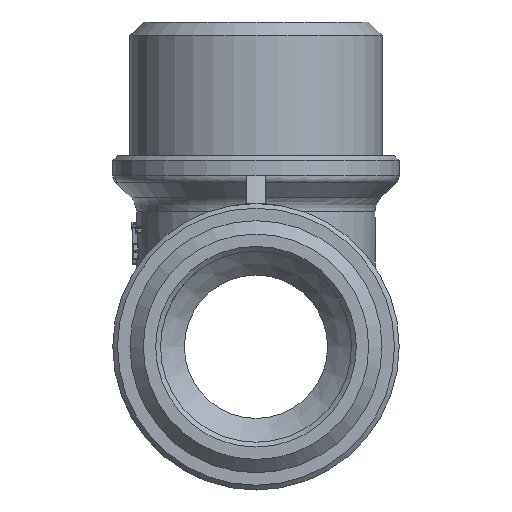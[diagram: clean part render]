
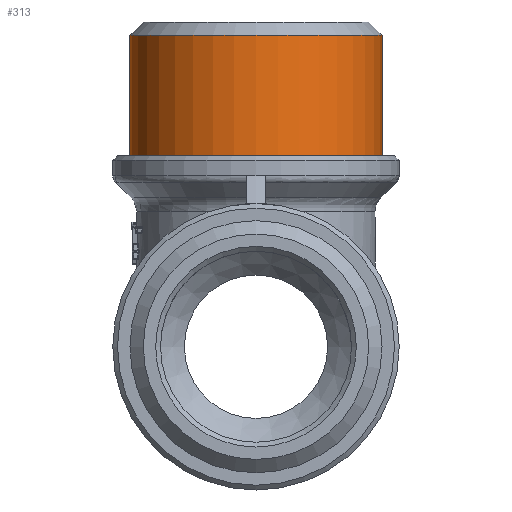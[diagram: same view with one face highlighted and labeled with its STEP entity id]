
A CAD part, front view. The second image highlights one B-rep face of the part: STEP entity #313.
In plain terms, the highlighted cylindrical face has radius 13.2 mm (diameter 26.4 mm), a full revolution.
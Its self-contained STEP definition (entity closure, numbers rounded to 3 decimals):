
#313=ADVANCED_FACE('',(#2198,#2200),#2202,.T.);
#2198=FACE_OUTER_BOUND('',#2199,.T.);
#2199=EDGE_LOOP('',(#4825));
#2200=FACE_OUTER_BOUND('',#2201,.T.);
#2201=EDGE_LOOP('',(#4826));
#2202=CYLINDRICAL_SURFACE('',#2203,13.2);
#2203=AXIS2_PLACEMENT_3D('',#2204,#2205,#2206);
#2204=CARTESIAN_POINT('',(0.,0.,20.));
#2205=DIRECTION('',(0.,0.,1.));
#2206=DIRECTION('',(0.,1.,0.));
#4825=ORIENTED_EDGE('',*,*,#6185,.F.);
#4826=ORIENTED_EDGE('',*,*,#6182,.F.);
#6182=EDGE_CURVE('',#7741,#7741,#7742,.F.);
#6185=EDGE_CURVE('',#7747,#7747,#7748,.T.);
#7741=VERTEX_POINT('',#14335);
#7742=CIRCLE('',#14336,13.2);
#7747=VERTEX_POINT('',#14350);
#7748=CIRCLE('',#14351,13.2);
#14335=CARTESIAN_POINT('',(0.,13.2,20.));
#14336=AXIS2_PLACEMENT_3D('',#14337,#14338,#14339);
#14337=CARTESIAN_POINT('',(0.,0.,20.));
#14338=DIRECTION('',(0.,0.,1.));
#14339=DIRECTION('',(0.,1.,0.));
#14350=CARTESIAN_POINT('',(0.,13.2,32.6));
#14351=AXIS2_PLACEMENT_3D('',#14352,#14353,#14354);
#14352=CARTESIAN_POINT('',(0.,0.,32.6));
#14353=DIRECTION('',(0.,0.,1.));
#14354=DIRECTION('',(0.,1.,0.));
